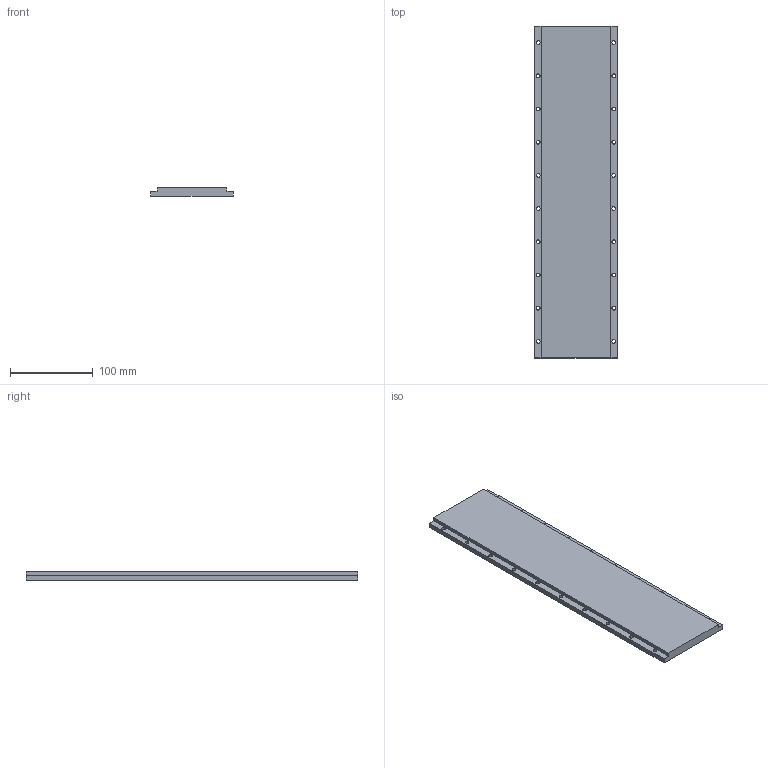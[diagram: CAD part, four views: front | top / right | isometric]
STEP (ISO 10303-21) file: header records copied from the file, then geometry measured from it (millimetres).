
FILE_DESCRIPTION (( 'STEP AP214' ), '1' );
FILE_NAME ('TL-100-400.STEP', '2021-04-27T09:55:15', ( '' ), ( '' ), 'SwSTEP 2.0', 'SolidWorks 2016', '' );
FILE_SCHEMA (( 'AUTOMOTIVE_DESIGN' ));
Length unit declared in the file: millimetre
Products named in the file (1): TL-100-400
Bounding box: 100 x 400 x 10.5 mm (x, y, z)
Volume: 389831.5 mm3; surface area: 91419 mm2
Topology: 1 solids, 1 shells, 50 faces, 144 edges, 96 vertices
Faces by surface type: cylinder 40, plane 10
Entity records: 1802 total; most frequent: DIRECTION 326, CARTESIAN_POINT 291, ORIENTED_EDGE 288, EDGE_CURVE 144, AXIS2_PLACEMENT_3D 131, VERTEX_POINT 96, EDGE_LOOP 90, CIRCLE 80
